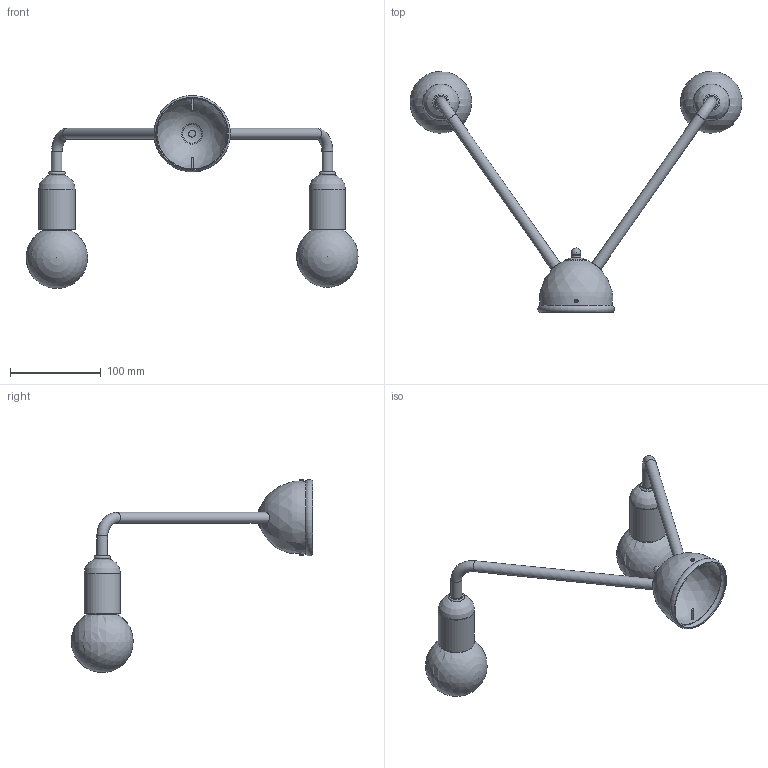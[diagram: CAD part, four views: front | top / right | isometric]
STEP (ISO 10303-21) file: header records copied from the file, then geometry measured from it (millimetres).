
FILE_DESCRIPTION(/* description */ (''),/* implementation_level */ '2;1');
FILE_NAME(/* name */ 'C:\Users\Dominika\Desktop\Modele CZARNY\T2X\KINKIET T2X.stp',/* time_stamp */ '2019-12-05T20:11:40+01:00',/* author */ ('Dominika'),/* organization */ (''),/* preprocessor_version */ 'ST-DEVELOPER v17',/* originating_system */ 'Autodesk Inventor 2019',/* authorisation */ '');
FILE_SCHEMA (('AUTOMOTIVE_DESIGN { 1 0 10303 214 3 1 1 }'));
Length unit declared in the file: millimetre
Products named in the file (12): KINKIET T2X; T2X mocowanie do ściany; T2X rurka; T2X klosz zarowki; T2X kulka przy scianie; T2X pierscien maly; T2X rurka_MIR; T2X klosz zarowki_MIR; T2X pierscien maly_MIR; sruba; sruba_MIR; klosz II
Assembly tree (12 placements, depth 2):
  KINKIET T2X
    T2X mocowanie do ściany
    T2X rurka
    T2X klosz zarowki
    T2X kulka przy scianie
    T2X pierscien maly
    T2X rurka_MIR
    T2X klosz zarowki_MIR
    T2X pierscien maly_MIR
    sruba
    sruba_MIR
    klosz II  x2
Bounding box: 365.17 x 265.42 x 212.2 mm (x, y, z)
Volume: 453400.2 mm3; surface area: 115704.7 mm2
Topology: 12 solids, 12 shells, 76 faces, 171 edges, 122 vertices
Faces by surface type: plane 35, cylinder 17, bspline 10, torus 9, sphere 3, cone 2
Full cylindrical faces by diameter (mm): 2.5 x2, 4 x2, 10 x1, 12 x6, 28.487 x2, 38 x2, 40 x2
Entity records: 2855 total; most frequent: CARTESIAN_POINT 634, DIRECTION 460, ORIENTED_EDGE 320, AXIS2_PLACEMENT_3D 213, EDGE_CURVE 160, CIRCLE 126, VERTEX_POINT 117, EDGE_LOOP 83
